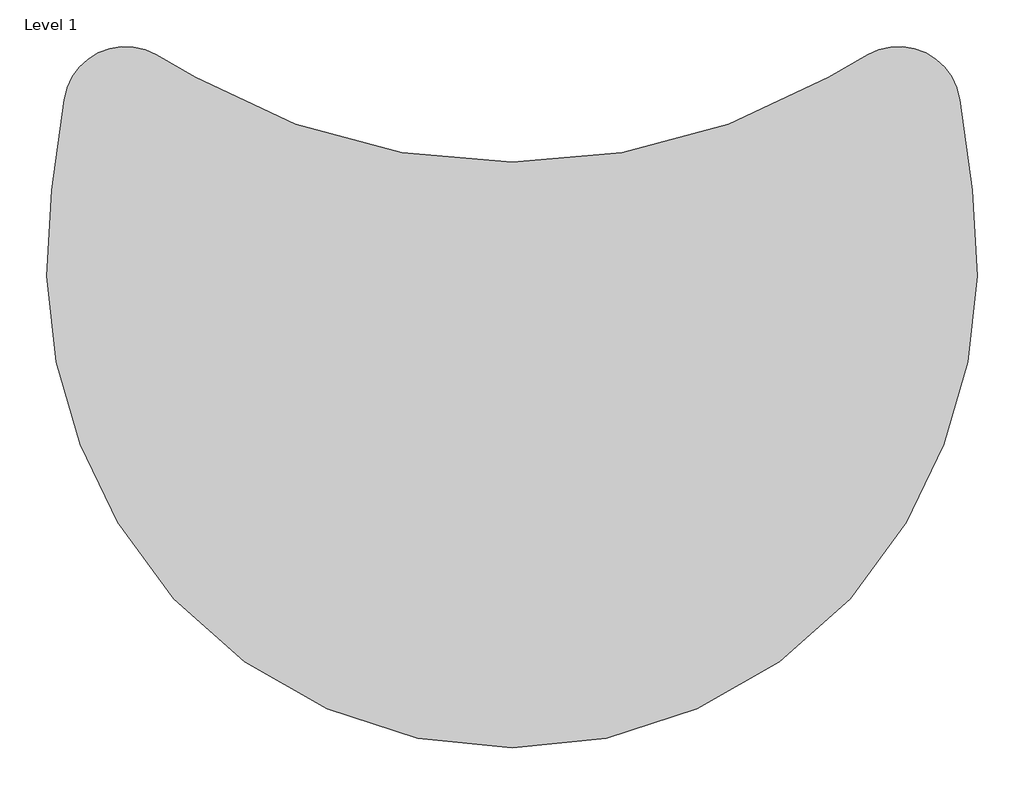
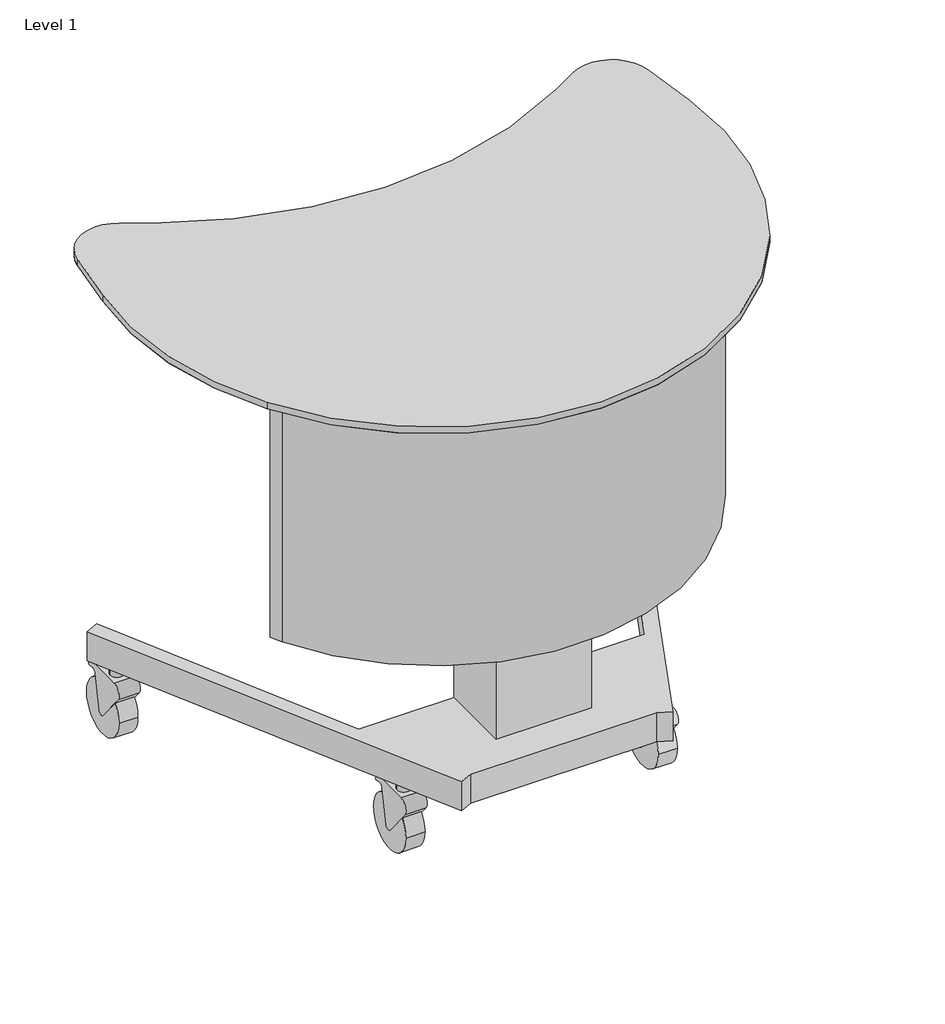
# One storey: 1 furniture element.
"""IFC4 building model written with IfcOpenShell, lengths in millimetres."""

import ifcopenshell
import ifcopenshell.guid

model = None  # the IFC model being written
_history = None  # IfcOwnerHistory: only IFC2X3 demands one
_inside = {}  # id of a spatial element -> (the spatial element, [elements in it])
_under = {}  # id of a project, library or spatial element -> (it, [spatial elements below it])
_declared = {}  # id of a project -> (the project, [libraries it declares])
_typed = {}  # id of a type object -> (the type object, [elements of that type])
_made_of = {}  # id of a material, layer set ... -> (it, [elements and type objects made of it])


def new_model(schema):
    """Start an empty IFC model of exactly this schema.

    Asked for "IFC4X3", IfcOpenShell would pick the latest addendum, in which some entities
    have other attributes; the version numbers below select the first issue.
    IFC2X3 requires an IfcOwnerHistory on every rooted entity: one is made here for all.
    """
    global model, _history
    if schema == "IFC4X3":
        model = ifcopenshell.file(schema_version=(4, 3, 0, 0))
    else:
        model = ifcopenshell.file(schema=schema)
    _inside.clear()
    _under.clear()
    _declared.clear()
    _typed.clear()
    _made_of.clear()
    _history = None
    if model.schema == "IFC2X3":
        org = make("IfcOrganization", Name="unknown")
        user = make(
            "IfcPersonAndOrganization",
            ThePerson=make("IfcPerson", FamilyName="unknown"),
            TheOrganization=org,
        )
        app = make(
            "IfcApplication",
            ApplicationDeveloper=org,
            Version="unknown",
            ApplicationFullName="unknown",
            ApplicationIdentifier="unknown",
        )
        _history = make(
            "IfcOwnerHistory",
            OwningUser=user,
            OwningApplication=app,
            ChangeAction="ADDED",
            CreationDate=0,
        )
    return model


def make(cls, **values):
    """One entity of the class cls with the attributes given. An attribute that is None is left unset."""
    return model.create_entity(
        cls, **{name: value for name, value in values.items() if value is not None}
    )


def rooted(cls, **values):
    """An entity with a GlobalId (a new one), such as an element, a storey or a relation."""
    return make(cls, GlobalId=ifcopenshell.guid.new(), OwnerHistory=_history, **values)


def si_unit(unit_type, name, prefix=None):
    """IfcSIUnit, for example si_unit("LENGTHUNIT", "METRE", prefix="MILLI")."""
    return make("IfcSIUnit", UnitType=unit_type, Prefix=prefix, Name=name)


def assignment(units):
    """IfcUnitAssignment: the units of a project."""
    return None if units is None else make("IfcUnitAssignment", Units=units)


def point(xyz):
    """IfcCartesianPoint."""
    return None if xyz is None else make("IfcCartesianPoint", Coordinates=xyz)


def direction(xyz):
    """IfcDirection."""
    return None if xyz is None else make("IfcDirection", DirectionRatios=xyz)


def frame(location, z_axis=None, x_axis=None):
    """IfcAxis2Placement3D, a coordinate frame: its origin and axes. An axis left out is left unset."""
    return make(
        "IfcAxis2Placement3D",
        Location=point(location),
        Axis=direction(z_axis),
        RefDirection=direction(x_axis),
    )


def frame_2d(location, x_axis=None):
    """IfcAxis2Placement2D, a coordinate frame in the plane: its origin and x axis."""
    return make(
        "IfcAxis2Placement2D", Location=point(location), RefDirection=direction(x_axis)
    )


def origin():
    """The frame at (0, 0, 0) with its axes left unset."""
    return frame((0.0, 0.0, 0.0))


def place(relative_to, where):
    """IfcLocalPlacement: puts the frame where relative to a parent placement (None: the world)."""
    return make(
        "IfcLocalPlacement", PlacementRelTo=relative_to, RelativePlacement=where
    )


def context(
    kind, dimensions, precision=None, world=None, true_north=None, identifier=None
):
    """IfcGeometricRepresentationContext, for example the 3D "Model" context."""
    return make(
        "IfcGeometricRepresentationContext",
        ContextIdentifier=identifier,
        ContextType=kind,
        CoordinateSpaceDimension=dimensions,
        Precision=precision,
        WorldCoordinateSystem=world,
        TrueNorth=true_north,
    )


def project(units=None, contexts=None):
    """IfcProject with its units and contexts."""
    return rooted(
        "IfcProject",
        Name="project",
        RepresentationContexts=contexts,
        UnitsInContext=assignment(units),
    )


def spatial(cls, under=None, at=None, **own):
    """A site, building, storey or space (cls), placed at a placement, below another one or the project."""
    s = rooted(cls, ObjectPlacement=at, **own)
    if under is not None:
        _under.setdefault(under.id(), (under, []))[1].append(s)
    return s


def polyline(points):
    """IfcPolyline through the points."""
    return make("IfcPolyline", Points=[point(p) for p in points])


def circle_curve(where, radius):
    """IfcCircle in the frame where."""
    return make("IfcCircle", Position=where, Radius=radius)


def trimmed(basis, trim1, trim2, sense, master):
    """IfcTrimmedCurve: the piece of a basis curve between two trims."""
    return make(
        "IfcTrimmedCurve",
        BasisCurve=basis,
        Trim1=trim1,
        Trim2=trim2,
        SenseAgreement=sense,
        MasterRepresentation=master,
    )


def segment(curve, same_sense, transition):
    """IfcCompositeCurveSegment."""
    return make(
        "IfcCompositeCurveSegment",
        Transition=transition,
        SameSense=same_sense,
        ParentCurve=curve,
    )


def composite_curve(segments, self_intersect=None):
    """IfcCompositeCurve: segments joined end to end."""
    return make("IfcCompositeCurve", Segments=segments, SelfIntersect=self_intersect)


def outline(outer, holes=None, kind="AREA"):
    """IfcArbitraryClosedProfileDef: a profile drawn as a closed curve; with holes, ...WithVoids."""
    if holes is None:
        return make("IfcArbitraryClosedProfileDef", ProfileType=kind, OuterCurve=outer)
    return make(
        "IfcArbitraryProfileDefWithVoids",
        ProfileType=kind,
        OuterCurve=outer,
        InnerCurves=holes,
    )


def extrude(swept, where, along, depth):
    """IfcExtrudedAreaSolid: the profile swept, set in the frame where, extruded along a direction by depth."""
    return make(
        "IfcExtrudedAreaSolid",
        SweptArea=swept,
        Position=where,
        ExtrudedDirection=direction(along),
        Depth=depth,
    )


def shape(context_of_items, identifier, shape_type, items):
    """IfcShapeRepresentation: the items that make up one representation, for example the "Body"."""
    return make(
        "IfcShapeRepresentation",
        ContextOfItems=context_of_items,
        RepresentationIdentifier=identifier,
        RepresentationType=shape_type,
        Items=items,
    )


def source(mapping_origin, context_of_items, identifier, shape_type, items):
    """IfcRepresentationMap: a shape defined once, which mapped items show again and again."""
    return make(
        "IfcRepresentationMap",
        MappingOrigin=mapping_origin,
        MappedRepresentation=shape(context_of_items, identifier, shape_type, items),
    )


def transform(
    local_origin,
    x_axis=None,
    y_axis=None,
    z_axis=None,
    scale=None,
    scale2=None,
    scale3=None,
    uniform=True,
):
    """IfcCartesianTransformationOperator3D, or its non-uniform kind. x_axis, y_axis, z_axis: its Axis1, 2, 3."""
    if uniform:
        return make(
            "IfcCartesianTransformationOperator3D",
            Axis1=direction(x_axis),
            Axis2=direction(y_axis),
            LocalOrigin=point(local_origin),
            Scale=scale,
            Axis3=direction(z_axis),
        )
    return make(
        "IfcCartesianTransformationOperator3DnonUniform",
        Axis1=direction(x_axis),
        Axis2=direction(y_axis),
        LocalOrigin=point(local_origin),
        Scale=scale,
        Axis3=direction(z_axis),
        Scale2=scale2,
        Scale3=scale3,
    )


def mapped(mapping_source, mapping_target):
    """IfcMappedItem: shows the shape of a source again, moved by a transform."""
    return make(
        "IfcMappedItem", MappingSource=mapping_source, MappingTarget=mapping_target
    )


def made_of(thing, what):
    """Note that an element or type object is made of a material, layer set ...; save() writes the relation."""
    if what is not None:
        _made_of.setdefault(what.id(), (what, []))[1].append(thing)
    return thing


def element(
    cls,
    number,
    at=None,
    inside=None,
    cuts=None,
    type_object=None,
    material=None,
    context=None,
    identifier="Body",
    shape_type=None,
    held_by="IfcProductDefinitionShape",
    body=None,
    shapes=None,
    **own,
):
    """One element of the class cls, such as IfcWall. Its Tag is "e" and its number.

    at: its placement. inside: the storey or other place that contains it. cuts: it is an
    opening in that element (IfcRelVoidsElement). A single representation is given by context,
    identifier, shape_type and body (its items); several are given by shapes. held_by: the class
    of the entity that holds the representations. save() writes the other relations.
    """
    e = rooted(cls, Tag="e%d" % number, ObjectPlacement=at, **own)
    if body is not None:
        shapes = [shape(context, identifier, shape_type, body)]
    if shapes is not None:
        e.Representation = make(held_by, Representations=shapes)
    if inside is not None:
        _inside.setdefault(inside.id(), (inside, []))[1].append(e)
    if cuts is not None:
        rooted(
            "IfcRelVoidsElement", RelatingBuildingElement=cuts, RelatedOpeningElement=e
        )
    if type_object is not None:
        _typed.setdefault(type_object.id(), (type_object, []))[1].append(e)
    return made_of(e, material)


def aggregate(whole, parts):
    """IfcRelAggregates: a whole, such as a stair, and the parts it consists of."""
    return rooted("IfcRelAggregates", RelatingObject=whole, RelatedObjects=parts)


def save(model, path):
    """Write the relations noted so far, then the file.

    IfcRelAggregates (storeys below a building ...), IfcRelContainedInSpatialStructure (elements
    in a storey), IfcRelDefinesByType, IfcRelAssociatesMaterial and IfcRelDeclares: one each for
    every whole, place, type object, material and project.
    """
    for whole, parts in _under.values():
        aggregate(whole, parts)
    for where, things in _inside.values():
        rooted(
            "IfcRelContainedInSpatialStructure",
            RelatedElements=things,
            RelatingStructure=where,
        )
    for kind, things in _typed.values():
        rooted("IfcRelDefinesByType", RelatedObjects=things, RelatingType=kind)
    for what, things in _made_of.values():
        rooted("IfcRelAssociatesMaterial", RelatedObjects=things, RelatingMaterial=what)
    for by, libraries in _declared.values():
        rooted("IfcRelDeclares", RelatingContext=by, RelatedDefinitions=libraries)
    model.write(path)


def plane_surface(at):
    """IfcPlane: the flat surface through the origin of the frame at, square to its z axis."""
    return make("IfcPlane", Position=at)


def revolved_surface(curve, axis_point, axis_direction):
    """IfcSurfaceOfRevolution: the curve turned about the line through axis_point along axis_direction."""
    return make(
        "IfcSurfaceOfRevolution",
        SweptCurve=make("IfcArbitraryOpenProfileDef", ProfileType="CURVE", Curve=curve),
        AxisPosition=make("IfcAxis1Placement", Location=point(axis_point), Axis=direction(axis_direction)),
    )


def advanced_brep(points, edges, surfaces, faces):
    """IfcAdvancedBrep: a solid bounded by faces that lie on surfaces and meet in shared edges.

    An edge is (start, end): straight between two places in points (the first is 0);
    or (start, end, curve); or (start, end, curve, False) where it runs against its curve.
    A face is (place in surfaces, loops), or (place, loops, False) where it looks against
    its surface's normal. A loop lists edges by number (the first is 1), with a minus sign
    where the edge is run from its end to its start. The first loop is the outer one.
    """
    corners = [point(p) for p in points]
    vertices = [make("IfcVertexPoint", VertexGeometry=c) for c in corners]
    made = []
    for start, end, *more in edges:
        made.append(
            make(
                "IfcEdgeCurve",
                EdgeStart=vertices[start],
                EdgeEnd=vertices[end],
                EdgeGeometry=more[0] if more else make("IfcPolyline", Points=[corners[start], corners[end]]),
                SameSense=more[1] if len(more) > 1 else True,
            )
        )
    hull = []
    for where, loops, *sense in faces:
        bounds = []
        for j, loop in enumerate(loops):
            ring = [make("IfcOrientedEdge", EdgeElement=made[abs(k) - 1], Orientation=k > 0) for k in loop]
            bounds.append(
                make(
                    "IfcFaceOuterBound" if j == 0 else "IfcFaceBound",
                    Bound=make("IfcEdgeLoop", EdgeList=ring),
                    Orientation=True,
                )
            )
        hull.append(make("IfcAdvancedFace", Bounds=bounds, FaceSurface=surfaces[where], SameSense=sense[0] if sense else True))
    return make("IfcAdvancedBrep", Outer=make("IfcClosedShell", CfsFaces=hull))


def furniture_72eb3576(model_context):
    return source(origin(), model_context, "Body", "SolidModel", [
        advanced_brep(
        [(-508.8128872, 403.8319139, 887.5070609), (-523.279447, 300.8969927, 887.5070609), (-448.2189859, -77.1008104, 887.5070609), (448.2189859, -77.1008104, 887.5070609), (523.279447, 300.8969927, 887.5070609), (508.8128872, 403.8319139, 887.5070609), (404.4941224, 454.7115751, 887.5070609), (360.0, 429.0228815, 887.5070609), (-360.0, 429.0228815, 887.5070609), (-404.4941224, 454.7115751, 887.5070609), (-489.0075259, 401.0484519, 875.0000016), (-414.4941224, 437.391067, 875.0000016), (-370.0, 411.7023734, 875.0000016), (370.0, 411.7023734, 875.0000016), (414.4941224, 437.391067, 875.0000016), (489.0075259, 401.0484519, 875.0000016), (503.4740856, 298.1135306, 875.0000016), (430.9797942, -66.9612706, 875.0000016), (-430.9797942, -66.9612706, 875.0000016), (-503.4740856, 298.1135306, 875.0000016)],
        [
            (0, 1),
            (1, 2, circle_curve(frame((56.0273732, 219.4807286, 887.5070609), z_axis=(0.0, 0.0, 1.0), x_axis=(-0.9902680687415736, 0.13917310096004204, 0.0)), 585.0)),
            (2, 3, circle_curve(frame((0.0, 186.5272243, 887.5070609), z_axis=(0.0, 0.0, 1.0), x_axis=(-0.8619595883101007, -0.5069769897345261, 0.0)), 520.0)),
            (3, 4, circle_curve(frame((-56.0273732, 219.4807286, 887.5070609), z_axis=(0.0, 0.0, 1.0), x_axis=(0.8619595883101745, -0.5069769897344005, 0.0)), 585.0)),
            (4, 5),
            (5, 6, circle_curve(frame((439.4941224, 394.0897968, 887.5070609), z_axis=(0.0, 0.0, 1.0), x_axis=(0.9902680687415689, 0.1391731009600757, 0.0)), 70.0)),
            (6, 7),
            (7, 8, circle_curve(frame((0.0, 1052.5611722, 887.5070609), z_axis=(0.0, 0.0, -1.0), x_axis=(0.49999999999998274, -0.8660254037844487, 0.0)), 720.0)),
            (8, 9),
            (9, 0, circle_curve(frame((-439.4941224, 394.0897968, 887.5070609), z_axis=(0.0, 0.0, 1.0), x_axis=(0.5000000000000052, 0.8660254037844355, 0.0)), 70.0)),
            (10, 11, circle_curve(frame((-439.4941224, 394.0897968, 875.0000016), z_axis=(0.0, 0.0, -1.0), x_axis=(0.5000000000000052, 0.8660254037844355, 0.0)), 50.0)),
            (11, 12),
            (12, 13, circle_curve(frame((0.0, 1052.5611722, 875.0000016), z_axis=(0.0, 0.0, 1.0), x_axis=(0.49999999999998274, -0.8660254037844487, 0.0)), 740.0)),
            (13, 14),
            (14, 15, circle_curve(frame((439.4941224, 394.0897968, 875.0000016), z_axis=(0.0, 0.0, -1.0), x_axis=(0.9902680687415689, 0.1391731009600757, 0.0)), 50.0)),
            (15, 16),
            (16, 17, circle_curve(frame((-56.0273732, 219.4807286, 875.0000016), z_axis=(0.0, 0.0, -1.0), x_axis=(0.8619595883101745, -0.5069769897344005, 0.0)), 565.0)),
            (17, 18, circle_curve(frame((0.0, 186.5272243, 875.0000016), z_axis=(0.0, 0.0, -1.0), x_axis=(-0.8619595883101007, -0.5069769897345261, 0.0)), 500.0)),
            (18, 19, circle_curve(frame((56.0273732, 219.4807286, 875.0000016), z_axis=(0.0, 0.0, -1.0), x_axis=(-0.9902680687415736, 0.13917310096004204, 0.0)), 565.0)),
            (19, 10),
            (19, 1),
            (0, 10),
            (18, 2),
            (17, 3),
            (16, 4),
            (15, 5),
            (14, 6),
            (13, 7),
            (12, 8),
            (11, 9),
        ],
        [
            plane_surface(frame((0.0, 302.2725105, 887.5070609), z_axis=(0.0, 0.0, 1.0), x_axis=(-0.8660254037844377, 0.5000000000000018, 0.0))),
            plane_surface(frame((0.0, 296.2588305, 875.0000016), z_axis=(0.0, 0.0, -1.0), x_axis=(-0.8660254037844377, 0.5000000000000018, 0.0))),
            plane_surface(frame((-496.2408057, 349.5809912, 875.0000016), z_axis=(-0.5250541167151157, 0.0737915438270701, -0.8478637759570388), x_axis=(-0.13917310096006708, -0.9902680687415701, 0.0))),
            revolved_surface(polyline([(-430.9797940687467, -66.9612705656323, 875.0000016), (-448.2189859, -77.10081040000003, 887.5070609)]), (56.0273732, 219.4807286, 521.6755778), (0.0, 0.0, 1.0)),
            revolved_surface(polyline([(430.9797940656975, -66.96127056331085, 875.0000016), (448.2189859, -77.1008104, 887.5070609)]), (0.0, 186.5272243, 562.3235204), (0.0, 0.0, 1.0)),
            revolved_surface(polyline([(503.4740855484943, 298.1135306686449, 875.0000016), (523.2794469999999, 300.8969927, 887.5070609)]), (-56.0273732, 219.4807286, 521.6755778), (0.0, 0.0, 1.0)),
            plane_surface(frame((496.2408057, 349.5809912, 875.0000016), z_axis=(0.5250541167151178, 0.0737915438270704, -0.8478637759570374), x_axis=(-0.13917310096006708, 0.9902680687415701, 0.0))),
            revolved_surface(polyline([(414.4941224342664, 437.39106695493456, 875.0000016), (404.4941224, 454.7115751, 887.5070609)]), (439.4941224, 394.0897968, 843.7323535), (0.0, 0.0, 1.0)),
            plane_surface(frame((392.2470612, 424.5467202, 875.0000016), z_axis=(-0.26510706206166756, 0.4591789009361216, -0.8478637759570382), x_axis=(-0.8660254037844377, -0.5000000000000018, 0.0))),
            revolved_surface(polyline([(370.0, 411.70237339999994, 875.0000016), (359.999999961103, 429.0228815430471, 887.5070609)]), (0.0, 1052.5611722, 1337.7611939), (0.0, 0.0, -1.0)),
            plane_surface(frame((-392.2470612, 424.5467202, 875.0000016), z_axis=(0.2651070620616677, 0.45917890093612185, -0.8478637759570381), x_axis=(-0.8660254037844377, 0.5000000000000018, 0.0))),
            revolved_surface(polyline([(-489.00752576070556, 401.04845186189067, 875.0000016), (-508.8128872, 403.8319139, 887.5070609)]), (-439.4941224, 394.0897968, 843.7323535), (0.0, 0.0, 1.0)),
        ],
        [
            (0, [[1, 2, 3, 4, 5, 6, 7, 8, 9, 10]]),
            (1, [[11, 12, 13, 14, 15, 16, 17, 18, 19, 20]]),
            (2, [[-20, 21, -1, 22]]),
            (3, [[-19, 23, -2, -21]]),
            (4, [[-18, 24, -3, -23]]),
            (5, [[-17, 25, -4, -24]]),
            (6, [[-16, 26, -5, -25]]),
            (7, [[-15, 27, -6, -26]]),
            (8, [[-14, 28, -7, -27]]),
            (9, [[-13, 29, -8, -28]]),
            (10, [[-12, 30, -9, -29]]),
            (11, [[-11, -22, -10, -30]]),
        ],
    ),
        extrude(outline(composite_curve([segment(polyline([(-405.4062199, -12.7808011), (-361.5152274, 11.1687287), (-351.1279923, -7.8673877)]), True, "CONTINUOUS"), segment(trimmed(circle_curve(frame_2d((0.0, 183.7288884)), 400.0), [point((-351.1279923, -7.8673877))], [point((351.1279923, -7.8673877))], True, "CARTESIAN"), True, "CONTINUOUS"), segment(polyline([(351.1279923, -7.8673877), (361.5152274, 11.1687287), (405.4062199, -12.7808011), (395.0189015, -31.8170514)]), True, "CONTINUOUS"), segment(trimmed(circle_curve(frame_2d((0.0, 183.728924)), 450.0), [point((395.0189015, -31.8170514))], [point((-395.0189015, -31.8170514))], False, "CARTESIAN"), True, "CONTINUOUS"), segment(polyline([(-395.0189015, -31.8170514), (-405.4062199, -12.7808011)]), True, "CONTINUOUS")], self_intersect=False)), frame((0.0, 0.0, 402.9999948), z_axis=(0.0, 0.0, 1.0), x_axis=(1.0, 0.0, 0.0)), (0.0, 0.0, 1.0), 472.0000069),
        extrude(outline(composite_curve([segment(trimmed(circle_curve(frame_2d((0.0, 1052.5611722)), 720.0), [point((-360.0, 429.0228815))], [point((360.0, 429.0228815))], True, "CARTESIAN"), True, "CONTINUOUS"), segment(polyline([(360.0, 429.0228815), (404.4941224, 454.7115751)]), True, "CONTINUOUS"), segment(trimmed(circle_curve(frame_2d((439.4941224, 394.0897968)), 70.0), [point((404.4941224, 454.7115751))], [point((508.8128872, 403.8319139))], False, "CARTESIAN"), True, "CONTINUOUS"), segment(polyline([(508.8128872, 403.8319139), (523.279447, 300.8969927)]), True, "CONTINUOUS"), segment(trimmed(circle_curve(frame_2d((-56.0273732, 219.4807286)), 585.0), [point((523.279447, 300.8969927))], [point((448.2189859, -77.1008104))], False, "CARTESIAN"), True, "CONTINUOUS"), segment(trimmed(circle_curve(frame_2d((0.0, 186.5272243)), 520.0), [point((448.2189859, -77.1008104))], [point((-448.2189859, -77.1008104))], False, "CARTESIAN"), True, "CONTINUOUS"), segment(trimmed(circle_curve(frame_2d((56.0273732, 219.4807286)), 585.0), [point((-448.2189859, -77.1008104))], [point((-523.279447, 300.8969927))], False, "CARTESIAN"), True, "CONTINUOUS"), segment(polyline([(-523.279447, 300.8969927), (-508.8128872, 403.8319139)]), True, "CONTINUOUS"), segment(trimmed(circle_curve(frame_2d((-439.4941224, 394.0897968)), 70.0), [point((-508.8128872, 403.8319139))], [point((-404.4941224, 454.7115751))], False, "CARTESIAN"), True, "CONTINUOUS"), segment(polyline([(-404.4941224, 454.7115751), (-360.0, 429.0228815)]), True, "CONTINUOUS")], self_intersect=False)), frame((0.0, 0.0, 887.5070609), z_axis=(0.0, 0.0, 1.0), x_axis=(1.0, 0.0, 0.0)), (0.0, 0.0, 1.0), 12.4929391),
        extrude(outline(polyline([(85.0000086, -25.0000002), (85.0000086, -155.0000155), (-85.0000073, -155.0000155), (-85.0000073, -25.0000002), (85.0000086, -25.0000002)])), frame((0.0, 0.0, 185.1070994), z_axis=(0.0, 0.0, 1.0), x_axis=(1.0, 0.0, 0.0)), (0.0, 0.0, 1.0), 689.8929022),
        extrude(outline(polyline([(-486.3288536, 411.5514373), (-463.6711523, 422.1168943), (-255.1771198, -25.0000002), (255.1771198, -25.0000002), (463.6711523, 422.1168943), (486.3288536, 411.5514373), (188.3582333, -227.4485441), (165.700532, -216.883128), (-165.700532, -216.883128), (-188.3582333, -227.4485441), (-486.3288536, 411.5514373)])), frame((0.0, 0.0, 130.1070999), z_axis=(0.0, 0.0, 1.0), x_axis=(1.0, 0.0, 0.0)), (0.0, 0.0, 1.0), 54.9999995),
        extrude(outline(composite_curve([segment(trimmed(circle_curve(frame_2d((-455.0880901, 375.0071075)), 11.9829571), [point((-443.105133, 375.0071075))], [point((-467.0710472, 375.0071075))], False, "CARTESIAN"), True, "CONTINUOUS"), segment(trimmed(circle_curve(frame_2d((-455.0880901, 375.0071075)), 11.9829571), [point((-467.0710472, 375.0071075))], [point((-443.105133, 375.0071075))], False, "CARTESIAN"), True, "CONTINUOUS")], self_intersect=False)), frame((0.0, 0.0, 118.2011673), z_axis=(0.0, 0.0, 1.0), x_axis=(1.0, 0.0, 0.0)), (0.0, 0.0, 1.0), 25.0518565),
        extrude(outline(composite_curve([segment(polyline([(353.1911199, 118.2011673), (422.0278449, 118.2011673)]), True, "CONTINUOUS"), segment(trimmed(circle_curve(frame_2d((422.0278449, 108.433686)), 9.7674813), [point((422.0278449, 118.2011673))], [point((431.2846714, 105.3168199))], False, "CARTESIAN"), True, "CONTINUOUS"), segment(polyline([(431.2846714, 105.3168199), (421.5641791, 107.2062922)]), True, "CONTINUOUS"), segment(trimmed(circle_curve(frame_2d((420.0582632, 99.4590263)), 7.892269), [point((421.5641791, 107.2062922))], [point((412.3109974, 100.9649423))], True, "CARTESIAN"), True, "CONTINUOUS"), segment(polyline([(412.3109974, 100.9649423), (400.4351675, 39.8690939)]), True, "CONTINUOUS"), segment(trimmed(circle_curve(frame_2d((393.3487579, 41.2465524)), 7.2190437), [point((400.4351675, 39.8690939))], [point((387.7385072, 36.703461))], False, "CARTESIAN"), True, "CONTINUOUS"), segment(polyline([(387.7385072, 36.703461), (341.5339304, 93.7613614)]), True, "CONTINUOUS"), segment(trimmed(circle_curve(frame_2d((353.1911199, 103.2011673)), 15.0), [point((341.5339304, 93.7613614))], [point((353.1911199, 118.2011673))], False, "CARTESIAN"), True, "CONTINUOUS")], self_intersect=False)), frame((-472.158393, 0.0, 0.0), z_axis=(1.0, 0.0, 0.0), x_axis=(0.0, 1.0, 0.0)), (0.0, 0.0, 1.0), 37.6266561),
        extrude(outline(composite_curve([segment(trimmed(circle_curve(frame_2d((390.1094243, 50.0)), 50.0), [point((440.1094243, 50.0))], [point((340.1094243, 50.0))], False, "CARTESIAN"), True, "CONTINUOUS"), segment(trimmed(circle_curve(frame_2d((390.1094243, 50.0)), 50.0), [point((340.1094243, 50.0))], [point((440.1094243, 50.0))], False, "CARTESIAN"), True, "CONTINUOUS")], self_intersect=False)), frame((-471.3519088, 0.0, 0.0), z_axis=(1.0, 0.0, 0.0), x_axis=(0.0, 1.0, 0.0)), (0.0, 0.0, 1.0), 33.7209692),
        extrude(outline(composite_curve([segment(trimmed(circle_curve(frame_2d((455.0880901, 375.0071075)), 11.9829571), [point((443.105133, 375.0071075))], [point((467.0710472, 375.0071075))], False, "CARTESIAN"), True, "CONTINUOUS"), segment(trimmed(circle_curve(frame_2d((455.0880901, 375.0071075)), 11.9829571), [point((467.0710472, 375.0071075))], [point((443.105133, 375.0071075))], False, "CARTESIAN"), True, "CONTINUOUS")], self_intersect=False)), frame((0.0, 0.0, 118.2011673), z_axis=(0.0, 0.0, 1.0), x_axis=(1.0, 0.0, 0.0)), (0.0, 0.0, 1.0), 25.0518565),
        extrude(outline(composite_curve([segment(polyline([(353.1911199, 118.2011673), (422.0278449, 118.2011673)]), True, "CONTINUOUS"), segment(trimmed(circle_curve(frame_2d((422.0278449, 108.433686)), 9.7674813), [point((422.0278449, 118.2011673))], [point((431.2846714, 105.3168199))], False, "CARTESIAN"), True, "CONTINUOUS"), segment(polyline([(431.2846714, 105.3168199), (421.5641791, 107.2062922)]), True, "CONTINUOUS"), segment(trimmed(circle_curve(frame_2d((420.0582632, 99.4590263)), 7.892269), [point((421.5641791, 107.2062922))], [point((412.3109974, 100.9649423))], True, "CARTESIAN"), True, "CONTINUOUS"), segment(polyline([(412.3109974, 100.9649423), (400.4351675, 39.8690939)]), True, "CONTINUOUS"), segment(trimmed(circle_curve(frame_2d((393.3487579, 41.2465524)), 7.2190437), [point((400.4351675, 39.8690939))], [point((387.7385072, 36.703461))], False, "CARTESIAN"), True, "CONTINUOUS"), segment(polyline([(387.7385072, 36.703461), (341.5339304, 93.7613614)]), True, "CONTINUOUS"), segment(trimmed(circle_curve(frame_2d((353.1911199, 103.2011673)), 15.0), [point((341.5339304, 93.7613614))], [point((353.1911199, 118.2011673))], False, "CARTESIAN"), True, "CONTINUOUS")], self_intersect=False)), frame((434.5317369, 0.0, 0.0), z_axis=(1.0, 0.0, 0.0), x_axis=(0.0, 1.0, 0.0)), (0.0, 0.0, 1.0), 37.6266561),
        extrude(outline(composite_curve([segment(trimmed(circle_curve(frame_2d((390.1094243, 50.0)), 50.0), [point((440.1094243, 50.0))], [point((340.1094243, 50.0))], False, "CARTESIAN"), True, "CONTINUOUS"), segment(trimmed(circle_curve(frame_2d((390.1094243, 50.0)), 50.0), [point((340.1094243, 50.0))], [point((440.1094243, 50.0))], False, "CARTESIAN"), True, "CONTINUOUS")], self_intersect=False)), frame((437.6309396, 0.0, 0.0), z_axis=(1.0, 0.0, 0.0), x_axis=(0.0, 1.0, 0.0)), (0.0, 0.0, 1.0), 33.7209692),
        extrude(outline(composite_curve([segment(trimmed(circle_curve(frame_2d((-225.7601652, -113.921643)), 11.9829571), [point((-213.7772082, -113.921643))], [point((-237.7431223, -113.921643))], False, "CARTESIAN"), True, "CONTINUOUS"), segment(trimmed(circle_curve(frame_2d((-225.7601652, -113.921643)), 11.9829571), [point((-237.7431223, -113.921643))], [point((-213.7772082, -113.921643))], False, "CARTESIAN"), True, "CONTINUOUS")], self_intersect=False)), frame((0.0, 0.0, 118.2011673), z_axis=(0.0, 0.0, 1.0), x_axis=(1.0, 0.0, 0.0)), (0.0, 0.0, 1.0), 25.0518565),
        extrude(outline(composite_curve([segment(polyline([(-135.7376306, 118.2011673), (-66.9009056, 118.2011673)]), True, "CONTINUOUS"), segment(trimmed(circle_curve(frame_2d((-66.9009056, 108.433686)), 9.7674813), [point((-66.9009056, 118.2011673))], [point((-57.6440791, 105.3168199))], False, "CARTESIAN"), True, "CONTINUOUS"), segment(polyline([(-57.6440791, 105.3168199), (-67.3645713, 107.2062922)]), True, "CONTINUOUS"), segment(trimmed(circle_curve(frame_2d((-68.8704873, 99.4590263)), 7.892269), [point((-67.3645713, 107.2062922))], [point((-76.6177531, 100.9649423))], True, "CARTESIAN"), True, "CONTINUOUS"), segment(polyline([(-76.6177531, 100.9649423), (-88.493583, 39.8690939)]), True, "CONTINUOUS"), segment(trimmed(circle_curve(frame_2d((-95.5799926, 41.2465524)), 7.2190437), [point((-88.493583, 39.8690939))], [point((-101.1902433, 36.703461))], False, "CARTESIAN"), True, "CONTINUOUS"), segment(polyline([(-101.1902433, 36.703461), (-147.39482, 93.7613614)]), True, "CONTINUOUS"), segment(trimmed(circle_curve(frame_2d((-135.7376306, 103.2011673)), 15.0), [point((-147.39482, 93.7613614))], [point((-135.7376306, 118.2011673))], False, "CARTESIAN"), True, "CONTINUOUS")], self_intersect=False)), frame((-242.8304682, 0.0, 0.0), z_axis=(1.0, 0.0, 0.0), x_axis=(0.0, 1.0, 0.0)), (0.0, 0.0, 1.0), 37.6266561),
        extrude(outline(composite_curve([segment(trimmed(circle_curve(frame_2d((-98.8193261, 50.0)), 50.0), [point((-48.8193261, 50.0))], [point((-148.8193261, 50.0))], False, "CARTESIAN"), True, "CONTINUOUS"), segment(trimmed(circle_curve(frame_2d((-98.8193261, 50.0)), 50.0), [point((-148.8193261, 50.0))], [point((-48.8193261, 50.0))], False, "CARTESIAN"), True, "CONTINUOUS")], self_intersect=False)), frame((-242.0239839, 0.0, 0.0), z_axis=(1.0, 0.0, 0.0), x_axis=(0.0, 1.0, 0.0)), (0.0, 0.0, 1.0), 33.7209692),
        extrude(outline(composite_curve([segment(trimmed(circle_curve(frame_2d((225.7601652, -113.921643)), 11.9829571), [point((213.7772082, -113.921643))], [point((237.7431223, -113.921643))], False, "CARTESIAN"), True, "CONTINUOUS"), segment(trimmed(circle_curve(frame_2d((225.7601652, -113.921643)), 11.9829571), [point((237.7431223, -113.921643))], [point((213.7772082, -113.921643))], False, "CARTESIAN"), True, "CONTINUOUS")], self_intersect=False)), frame((0.0, 0.0, 118.2011673), z_axis=(0.0, 0.0, 1.0), x_axis=(1.0, 0.0, 0.0)), (0.0, 0.0, 1.0), 25.0518565),
        extrude(outline(composite_curve([segment(polyline([(-135.7376306, 118.2011673), (-66.9009056, 118.2011673)]), True, "CONTINUOUS"), segment(trimmed(circle_curve(frame_2d((-66.9009056, 108.433686)), 9.7674813), [point((-66.9009056, 118.2011673))], [point((-57.6440791, 105.3168199))], False, "CARTESIAN"), True, "CONTINUOUS"), segment(polyline([(-57.6440791, 105.3168199), (-67.3645713, 107.2062922)]), True, "CONTINUOUS"), segment(trimmed(circle_curve(frame_2d((-68.8704873, 99.4590263)), 7.892269), [point((-67.3645713, 107.2062922))], [point((-76.6177531, 100.9649423))], True, "CARTESIAN"), True, "CONTINUOUS"), segment(polyline([(-76.6177531, 100.9649423), (-88.493583, 39.8690939)]), True, "CONTINUOUS"), segment(trimmed(circle_curve(frame_2d((-95.5799926, 41.2465524)), 7.2190437), [point((-88.493583, 39.8690939))], [point((-101.1902433, 36.703461))], False, "CARTESIAN"), True, "CONTINUOUS"), segment(polyline([(-101.1902433, 36.703461), (-147.39482, 93.7613614)]), True, "CONTINUOUS"), segment(trimmed(circle_curve(frame_2d((-135.7376306, 103.2011673)), 15.0), [point((-147.39482, 93.7613614))], [point((-135.7376306, 118.2011673))], False, "CARTESIAN"), True, "CONTINUOUS")], self_intersect=False)), frame((205.2038121, 0.0, 0.0), z_axis=(1.0, 0.0, 0.0), x_axis=(0.0, 1.0, 0.0)), (0.0, 0.0, 1.0), 37.6266561),
        extrude(outline(composite_curve([segment(trimmed(circle_curve(frame_2d((-98.8193261, 50.0)), 50.0), [point((-48.8193261, 50.0))], [point((-148.8193261, 50.0))], False, "CARTESIAN"), True, "CONTINUOUS"), segment(trimmed(circle_curve(frame_2d((-98.8193261, 50.0)), 50.0), [point((-148.8193261, 50.0))], [point((-48.8193261, 50.0))], False, "CARTESIAN"), True, "CONTINUOUS")], self_intersect=False)), frame((208.3030147, 0.0, 0.0), z_axis=(1.0, 0.0, 0.0), x_axis=(0.0, 1.0, 0.0)), (0.0, 0.0, 1.0), 33.7209692),
    ])


model = new_model("IFC4")

# Units and contexts
model_context = context("Model", 3, world=origin())
ifc_project = project(units=[si_unit("LENGTHUNIT", "METRE", prefix="MILLI")], contexts=[model_context])

# Site, building, storey
site = spatial("IfcSite", under=ifc_project)
building = spatial("IfcBuilding", under=site)
storey = spatial("IfcBuildingStorey", under=building, Name="Level 1", Elevation=0.0)

# Furniture
placement = place(None, origin())
furniture_shape = furniture_72eb3576(model_context)
element("IfcFurniture", 1, ObjectType="BK Library - Ease-Up - Infopoint : BK Library - Ease-Up - Infopoint", at=placement, inside=storey, context=model_context, shape_type="MappedRepresentation", body=[
    mapped(furniture_shape, transform((-1976.9579626, 2197.9079229, -348.6569781), x_axis=(1.0, 0.0, 0.0), y_axis=(0.0, 1.0, 0.0), z_axis=(0.0, 0.0, 1.0))),
])

save(model, "model.ifc")
